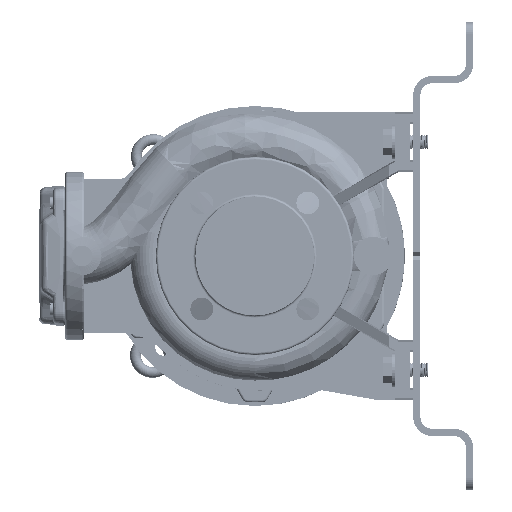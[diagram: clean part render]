
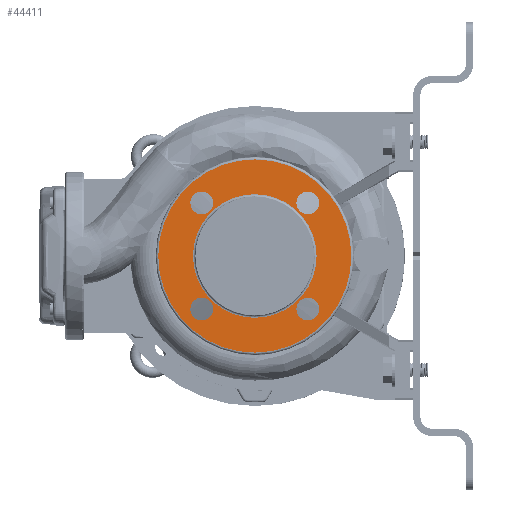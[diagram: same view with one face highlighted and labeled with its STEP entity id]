
A CAD part, left-side view. The second image highlights one B-rep face of the part: STEP entity #44411.
In plain terms, the highlighted planar face has unit normal (-1, 0, 0).
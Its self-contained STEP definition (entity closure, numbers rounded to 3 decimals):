
#1442 = DIRECTION ( 'NONE',  ( 0., -1., 0. ) ) ;
#2629 = CARTESIAN_POINT ( 'NONE',  ( -144.224, 126.825, 223.101 ) ) ;
#3791 = DIRECTION ( 'NONE',  ( -1., 0., 0. ) ) ;
#4030 = EDGE_CURVE ( 'NONE', #11701, #113813, #143843, .T. ) ;
#5144 = EDGE_LOOP ( 'NONE', ( #50325, #49334 ) ) ;
#5941 = ORIENTED_EDGE ( 'NONE', *, *, #32591, .F. ) ;
#8520 = DIRECTION ( 'NONE',  ( 0., -1., 0. ) ) ;
#8824 = CARTESIAN_POINT ( 'NONE',  ( -144.224, 215.213, 311.489 ) ) ;
#10776 = ORIENTED_EDGE ( 'NONE', *, *, #155613, .F. ) ;
#11701 = VERTEX_POINT ( 'NONE', #151780 ) ;
#14198 = DIRECTION ( 'NONE',  ( -1., 0., 0. ) ) ;
#15932 = CARTESIAN_POINT ( 'NONE',  ( -144.224, 119.519, 267.295 ) ) ;
#17131 = AXIS2_PLACEMENT_3D ( 'NONE', #51578, #14198, #67014 ) ;
#18612 = FACE_BOUND ( 'NONE', #105560, .T. ) ;
#20320 = EDGE_LOOP ( 'NONE', ( #206914, #68429 ) ) ;
#21298 = DIRECTION ( 'NONE',  ( -1., 0., 0. ) ) ;
#31010 = CIRCLE ( 'NONE', #87334, 80.5 ) ;
#32007 = EDGE_CURVE ( 'NONE', #214769, #88823, #206096, .T. ) ;
#32501 = DIRECTION ( 'NONE',  ( 0., 1., 0. ) ) ;
#32591 = EDGE_CURVE ( 'NONE', #171349, #186317, #185302, .T. ) ;
#34796 = EDGE_CURVE ( 'NONE', #129151, #100057, #31010, .T. ) ;
#38642 = CIRCLE ( 'NONE', #63252, 9.5 ) ;
#38670 = VERTEX_POINT ( 'NONE', #63562 ) ;
#38852 = DIRECTION ( 'NONE',  ( 0., -1., 0. ) ) ;
#40461 = CARTESIAN_POINT ( 'NONE',  ( -144.224, 126.825, 311.489 ) ) ;
#41013 = DIRECTION ( 'NONE',  ( -1., 0., 0. ) ) ;
#44411 = ADVANCED_FACE ( 'NONE', ( #197160, #156292, #18612, #53833, #89101, #153010 ), #121056, .F. ) ;
#44925 = AXIS2_PLACEMENT_3D ( 'NONE', #45406, #96105, #195310 ) ;
#45406 = CARTESIAN_POINT ( 'NONE',  ( -144.224, 215.213, 311.489 ) ) ;
#45897 = EDGE_LOOP ( 'NONE', ( #129185, #165346 ) ) ;
#47090 = CIRCLE ( 'NONE', #170274, 9.5 ) ;
#47337 = DIRECTION ( 'NONE',  ( -1., 0., 0. ) ) ;
#48666 = EDGE_CURVE ( 'NONE', #120906, #38670, #75042, .T. ) ;
#49334 = ORIENTED_EDGE ( 'NONE', *, *, #34796, .T. ) ;
#50325 = ORIENTED_EDGE ( 'NONE', *, *, #178463, .T. ) ;
#51578 = CARTESIAN_POINT ( 'NONE',  ( -144.224, 215.213, 223.101 ) ) ;
#51834 = ORIENTED_EDGE ( 'NONE', *, *, #86043, .F. ) ;
#53355 = DIRECTION ( 'NONE',  ( -1., 0., 0. ) ) ;
#53833 = FACE_BOUND ( 'NONE', #20320, .T. ) ;
#54370 = DIRECTION ( 'NONE',  ( 0., 0., -1. ) ) ;
#63252 = AXIS2_PLACEMENT_3D ( 'NONE', #84235, #53355, #32501 ) ;
#63562 = CARTESIAN_POINT ( 'NONE',  ( -144.224, 222.519, 267.295 ) ) ;
#64502 = CARTESIAN_POINT ( 'NONE',  ( -144.224, 215.213, 223.101 ) ) ;
#66754 = ORIENTED_EDGE ( 'NONE', *, *, #139655, .F. ) ;
#67014 = DIRECTION ( 'NONE',  ( 0., 0., 1. ) ) ;
#67804 = DIRECTION ( 'NONE',  ( 0., 0., 1. ) ) ;
#68429 = ORIENTED_EDGE ( 'NONE', *, *, #32007, .F. ) ;
#70243 = DIRECTION ( 'NONE',  ( 0., 0., -1. ) ) ;
#70706 = AXIS2_PLACEMENT_3D ( 'NONE', #2629, #21298, #157858 ) ;
#75042 = CIRCLE ( 'NONE', #187596, 51.5 ) ;
#75089 = EDGE_LOOP ( 'NONE', ( #75640, #10776 ) ) ;
#75640 = ORIENTED_EDGE ( 'NONE', *, *, #48666, .F. ) ;
#80882 = CIRCLE ( 'NONE', #112455, 51.5 ) ;
#84235 = CARTESIAN_POINT ( 'NONE',  ( -144.224, 126.825, 223.101 ) ) ;
#86043 = EDGE_CURVE ( 'NONE', #144767, #149316, #91772, .T. ) ;
#87334 = AXIS2_PLACEMENT_3D ( 'NONE', #165226, #47337, #211556 ) ;
#88823 = VERTEX_POINT ( 'NONE', #166164 ) ;
#89101 = FACE_BOUND ( 'NONE', #75089, .T. ) ;
#91772 = CIRCLE ( 'NONE', #70706, 9.5 ) ;
#96105 = DIRECTION ( 'NONE',  ( -1., 0., 0. ) ) ;
#100057 = VERTEX_POINT ( 'NONE', #170724 ) ;
#105560 = EDGE_LOOP ( 'NONE', ( #5941, #66754 ) ) ;
#105977 = CARTESIAN_POINT ( 'NONE',  ( -144.224, 224.713, 223.101 ) ) ;
#106302 = EDGE_CURVE ( 'NONE', #88823, #214769, #153974, .T. ) ;
#107297 = EDGE_CURVE ( 'NONE', #149316, #144767, #38642, .T. ) ;
#108942 = DIRECTION ( 'NONE',  ( -1., 0., 0. ) ) ;
#109411 = CARTESIAN_POINT ( 'NONE',  ( -144.224, 205.713, 223.101 ) ) ;
#111079 = AXIS2_PLACEMENT_3D ( 'NONE', #8824, #175089, #1442 ) ;
#111384 = AXIS2_PLACEMENT_3D ( 'NONE', #64502, #152608, #67804 ) ;
#112455 = AXIS2_PLACEMENT_3D ( 'NONE', #124417, #108942, #174015 ) ;
#113813 = VERTEX_POINT ( 'NONE', #202884 ) ;
#116948 = EDGE_CURVE ( 'NONE', #113813, #11701, #47090, .T. ) ;
#118269 = CARTESIAN_POINT ( 'NONE',  ( -144.224, 251.519, 267.295 ) ) ;
#120906 = VERTEX_POINT ( 'NONE', #15932 ) ;
#121056 = PLANE ( 'NONE',  #172203 ) ;
#122145 = CARTESIAN_POINT ( 'NONE',  ( -144.224, 222.519, 267.295 ) ) ;
#124417 = CARTESIAN_POINT ( 'NONE',  ( -144.224, 171.019, 267.295 ) ) ;
#127729 = ORIENTED_EDGE ( 'NONE', *, *, #107297, .F. ) ;
#129151 = VERTEX_POINT ( 'NONE', #118269 ) ;
#129185 = ORIENTED_EDGE ( 'NONE', *, *, #116948, .F. ) ;
#133313 = AXIS2_PLACEMENT_3D ( 'NONE', #135926, #3791, #54370 ) ;
#135926 = CARTESIAN_POINT ( 'NONE',  ( -144.224, 126.825, 311.489 ) ) ;
#139655 = EDGE_CURVE ( 'NONE', #186317, #171349, #147134, .T. ) ;
#139675 = CARTESIAN_POINT ( 'NONE',  ( -144.224, 117.325, 223.101 ) ) ;
#142801 = DIRECTION ( 'NONE',  ( -1., 0., 0. ) ) ;
#143843 = CIRCLE ( 'NONE', #133313, 9.5 ) ;
#144355 = CARTESIAN_POINT ( 'NONE',  ( -144.224, 224.713, 311.489 ) ) ;
#144767 = VERTEX_POINT ( 'NONE', #206071 ) ;
#147134 = CIRCLE ( 'NONE', #17131, 9.5 ) ;
#149316 = VERTEX_POINT ( 'NONE', #139675 ) ;
#151780 = CARTESIAN_POINT ( 'NONE',  ( -144.224, 136.325, 311.489 ) ) ;
#152608 = DIRECTION ( 'NONE',  ( -1., 0., 0. ) ) ;
#153010 = FACE_OUTER_BOUND ( 'NONE', #5144, .T. ) ;
#153974 = CIRCLE ( 'NONE', #44925, 9.5 ) ;
#154105 = DIRECTION ( 'NONE',  ( 0., 1., 0. ) ) ;
#155613 = EDGE_CURVE ( 'NONE', #38670, #120906, #80882, .T. ) ;
#156292 = FACE_BOUND ( 'NONE', #199748, .T. ) ;
#157858 = DIRECTION ( 'NONE',  ( 0., 1., 0. ) ) ;
#165226 = CARTESIAN_POINT ( 'NONE',  ( -144.224, 171.019, 267.295 ) ) ;
#165346 = ORIENTED_EDGE ( 'NONE', *, *, #4030, .F. ) ;
#166164 = CARTESIAN_POINT ( 'NONE',  ( -144.224, 205.713, 311.489 ) ) ;
#170171 = CIRCLE ( 'NONE', #201944, 80.5 ) ;
#170274 = AXIS2_PLACEMENT_3D ( 'NONE', #40461, #174845, #70243 ) ;
#170724 = CARTESIAN_POINT ( 'NONE',  ( -144.224, 90.519, 267.295 ) ) ;
#171349 = VERTEX_POINT ( 'NONE', #109411 ) ;
#172203 = AXIS2_PLACEMENT_3D ( 'NONE', #122145, #206941, #154105 ) ;
#174015 = DIRECTION ( 'NONE',  ( 0., -1., 0. ) ) ;
#174845 = DIRECTION ( 'NONE',  ( -1., 0., 0. ) ) ;
#175089 = DIRECTION ( 'NONE',  ( -1., 0., 0. ) ) ;
#176949 = CARTESIAN_POINT ( 'NONE',  ( -144.224, 171.019, 267.295 ) ) ;
#178463 = EDGE_CURVE ( 'NONE', #100057, #129151, #170171, .T. ) ;
#185302 = CIRCLE ( 'NONE', #111384, 9.5 ) ;
#186317 = VERTEX_POINT ( 'NONE', #105977 ) ;
#187596 = AXIS2_PLACEMENT_3D ( 'NONE', #189808, #41013, #38852 ) ;
#189808 = CARTESIAN_POINT ( 'NONE',  ( -144.224, 171.019, 267.295 ) ) ;
#195310 = DIRECTION ( 'NONE',  ( 0., -1., 0. ) ) ;
#197160 = FACE_BOUND ( 'NONE', #45897, .T. ) ;
#199748 = EDGE_LOOP ( 'NONE', ( #127729, #51834 ) ) ;
#201944 = AXIS2_PLACEMENT_3D ( 'NONE', #176949, #142801, #8520 ) ;
#202884 = CARTESIAN_POINT ( 'NONE',  ( -144.224, 117.325, 311.489 ) ) ;
#206071 = CARTESIAN_POINT ( 'NONE',  ( -144.224, 136.325, 223.101 ) ) ;
#206096 = CIRCLE ( 'NONE', #111079, 9.5 ) ;
#206914 = ORIENTED_EDGE ( 'NONE', *, *, #106302, .F. ) ;
#206941 = DIRECTION ( 'NONE',  ( 1., 0., 0. ) ) ;
#211556 = DIRECTION ( 'NONE',  ( 0., -1., 0. ) ) ;
#214769 = VERTEX_POINT ( 'NONE', #144355 ) ;
